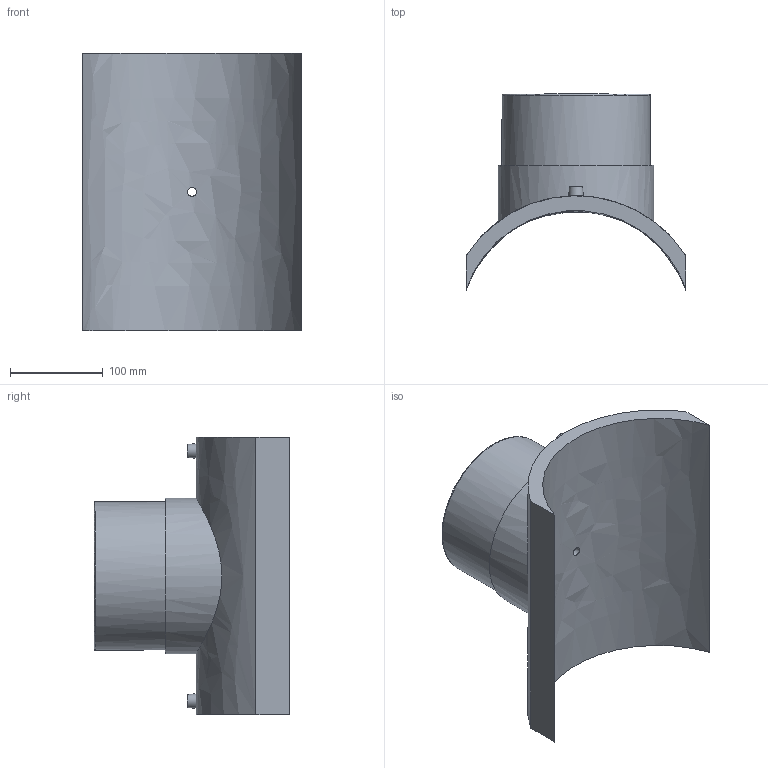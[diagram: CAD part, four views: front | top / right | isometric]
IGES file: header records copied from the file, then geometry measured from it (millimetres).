
Global section: file name: 495803250160T; native system: Autodesk Inventor 2019; preprocessor: unknown; author: KIM; date: 20240404.114827; units: millimetre
Bounding box: 237 x 211.22 x 300 mm (x, y, z)
Volume: 2379706 mm3; surface area: 325475.9 mm2
Topology: 1 solids, 1 shells, 29 faces, 60 edges, 43 vertices
Faces by surface type: bspline 29
